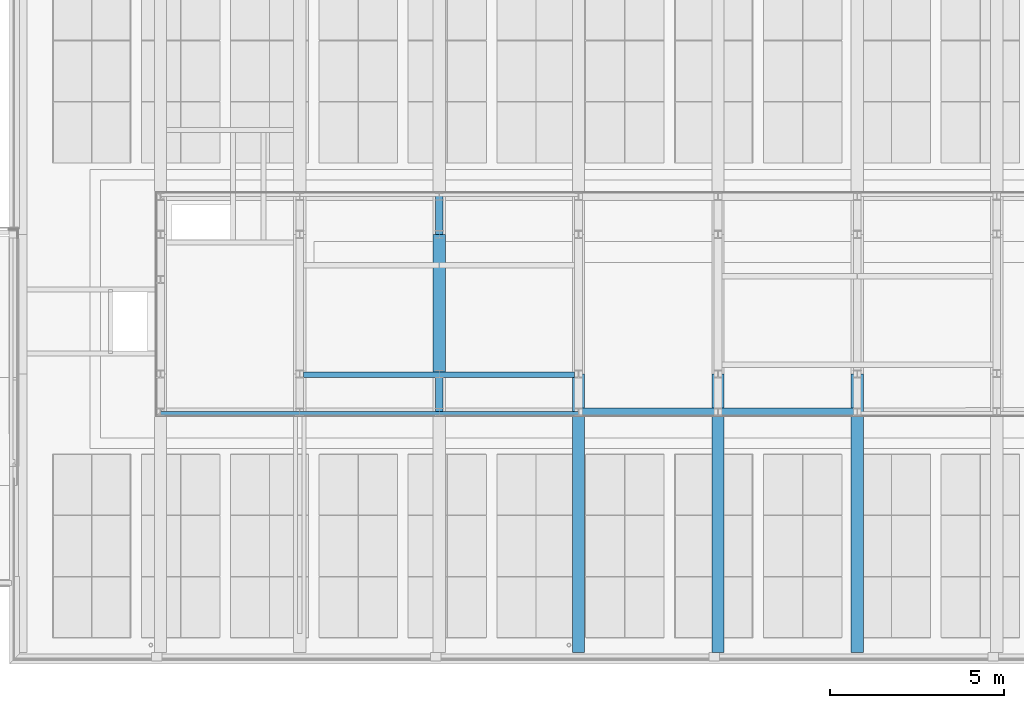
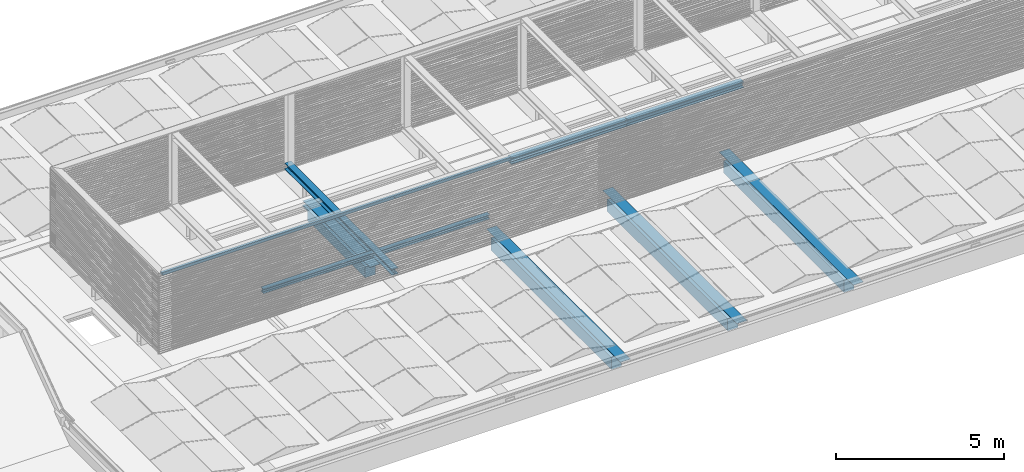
# One storey, part 8 of 63: 8 beams.
"""IFC2X3 building model written with IfcOpenShell, lengths in millimetres."""

from ifc_helpers import new_model, entity, si_unit, converted_unit, derived_unit, money_unit, direction, frame, origin_with_axes, place, context, subcontext, project, spatial, faceted_brep, material, type_object, element, save


model = new_model("IFC2X3")

# Units and contexts
model_context = context("Model", 3, precision=0.01, world=origin_with_axes(), true_north=direction((0.0, 1.0)))
body_context = subcontext(model_context, "Body", "Model", "MODEL_VIEW")
ifc_project = project(units=[si_unit("LENGTHUNIT", "METRE", prefix="MILLI"), si_unit("AREAUNIT", "SQUARE_METRE"), si_unit("VOLUMEUNIT", "CUBIC_METRE"), converted_unit("PLANEANGLEUNIT", "DEGREE", entity("IfcPlaneAngleMeasure", 0.0174532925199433), si_unit("PLANEANGLEUNIT", "RADIAN"), dimensions=[0, 0, 0, 0, 0, 0, 0]), money_unit("EUR"), converted_unit("TIMEUNIT", "Year", entity("IfcTimeMeasure", 31557600.0), si_unit("TIMEUNIT", "SECOND"), dimensions=[0, 0, 1, 0, 0, 0, 0]), si_unit("MASSUNIT", "GRAM", prefix="KILO"), si_unit("THERMODYNAMICTEMPERATUREUNIT", "DEGREE_CELSIUS"), si_unit("LUMINOUSINTENSITYUNIT", "LUMEN"), si_unit("ENERGYUNIT", "JOULE", prefix="MEGA"), derived_unit("THERMALCONDUCTANCEUNIT", [(si_unit("POWERUNIT", "WATT"), 1), (si_unit("LENGTHUNIT", "METRE"), -1), (si_unit("THERMODYNAMICTEMPERATUREUNIT", "KELVIN"), -1)]), derived_unit("SPECIFICHEATCAPACITYUNIT", [(si_unit("ENERGYUNIT", "JOULE"), 1), (si_unit("MASSUNIT", "GRAM", prefix="KILO"), -1), (si_unit("THERMODYNAMICTEMPERATUREUNIT", "KELVIN"), -1)]), derived_unit("MASSDENSITYUNIT", [(si_unit("MASSUNIT", "GRAM", prefix="KILO"), 1), (si_unit("VOLUMEUNIT", "CUBIC_METRE"), -1)])], contexts=[model_context])

# Site, building, storey
site_placement = place(None, origin_with_axes())
site = spatial("IfcSite", under=ifc_project, at=site_placement, Name="<site naam>", CompositionType="ELEMENT")
building_placement = place(site_placement, origin_with_axes())
building = spatial("IfcBuilding", under=site, at=building_placement, Name="<Naam gebouw>", CompositionType="ELEMENT")
storey_placement = place(building_placement, frame((0.0, 0.0, 12770.0), z_axis=(0.0, 0.0, 1.0), x_axis=(1.0, 0.0, 0.0)))
storey = spatial("IfcBuildingStorey", under=building, at=storey_placement, Name="04 4e verdieping", CompositionType="ELEMENT", Elevation=12770.0)

# Beams
ifc_material_1 = material(Name="staal C")
beam_type_1 = type_object("IfcBeamType", Name="HEB220 220 x 220", PredefinedType="BEAM")
beam_1_placement = place(storey_placement, frame((36000.00000000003, 6907.381278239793, 3039.88580884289), z_axis=(0.0, 0.0, 1.0), x_axis=(0.0001309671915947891, 0.9999999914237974, 0.0)))
element("IfcBeam", 1, at=beam_1_placement, inside=storey, type_object=beam_type_1, material=ifc_material_1, Name="Info_Balk_HEB220", ObjectType="BEAM", context=body_context, shape_type="Brep", body=[
    faceted_brep([(110.0000000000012, 4110.014716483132, 99.50000000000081), (110.0000000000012, 7890.014474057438, 99.50000000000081), (110.0000000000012, 7890.014474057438, 115.5000000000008), (110.0000000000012, 4110.014716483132, 115.5000000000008), (95.57160549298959, 7995.262585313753, 99.50000000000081), (95.58538978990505, 7890.012586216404, 99.50000000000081), (96.080445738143, 4110.012893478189, 99.50000000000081), (96.09423003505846, 4004.762894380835, 99.50000000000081), (4.750000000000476, 4004.750931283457, 99.50000000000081), (4.750000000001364, 7995.250690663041, 99.50000000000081), (95.58538978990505, 7890.012586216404, 115.5000000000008), (-92.41460859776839, 7889.987964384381, 115.5000000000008), (-108.4146084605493, 7889.985868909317, 115.5000000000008), (-108.429016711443, 8000.000068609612, 115.5000000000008), (-109.9999999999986, 8000.000068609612, 115.5000000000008), (-110.0000000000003, 0.0, 115.5000000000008), (-107.3812791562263, 0.0, 115.5000000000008), (-107.3956837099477, 109.9859699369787, 115.5000000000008), (-91.3956838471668, 109.9880654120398, 115.5000000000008), (-91.38189955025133, 4.738066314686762, 115.5000000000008), (96.61809883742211, 4.762688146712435, 115.5000000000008), (96.60431454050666, 110.0126872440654, 115.5000000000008), (110.0000000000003, 110.0144416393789, 115.5000000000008), (110.0000000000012, 3890.014714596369, 115.5000000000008), (96.10925852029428, 3890.012895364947, 115.5000000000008), (96.09547422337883, 3995.262894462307, 115.5000000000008), (-91.90452416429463, 3995.238272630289, 115.5000000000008), (-91.89073986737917, 3889.988273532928, 115.5000000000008), (-107.89073973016, 3889.986178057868, 115.5000000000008), (-107.9195525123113, 4109.986176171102, 115.5000000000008), (-91.91955264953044, 4109.988271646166, 115.5000000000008), (-91.90576835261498, 4004.738272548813, 115.5000000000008), (96.09423003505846, 4004.762894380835, 115.5000000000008), (96.080445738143, 4110.012893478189, 115.5000000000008), (95.57160549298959, 7995.262585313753, 115.5000000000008), (-92.42839289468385, 7995.237963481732, 115.5000000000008), (-91.90576835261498, 4004.738272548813, 99.50000000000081), (-4.749999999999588, 4004.749687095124, 99.50000000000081), (-4.749999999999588, 4004.749687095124, -88.4999999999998), (-91.90576835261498, 4004.738272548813, -88.4999999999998), (-91.90576835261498, 4004.738272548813, -104.4999999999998), (96.09423003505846, 4004.762894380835, -104.4999999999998), (96.09423003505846, 4004.762894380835, -88.4999999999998), (4.750000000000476, 4004.750931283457, -88.4999999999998), (4.750000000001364, 7995.250690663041, -88.4999999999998), (-92.42839289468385, 7995.237963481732, 99.50000000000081), (95.57160549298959, 7995.262585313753, -88.4999999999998), (95.57160549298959, 7995.262585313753, -104.4999999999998), (-92.42839289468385, 7995.237963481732, -104.4999999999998), (-92.42839289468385, 7995.237963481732, -88.4999999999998), (-4.749999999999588, 7995.249446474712, -88.4999999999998), (-4.749999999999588, 7995.249446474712, 99.50000000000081), (-108.4146084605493, 7889.985868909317, 99.50000000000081), (-92.41460859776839, 7889.987964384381, 99.50000000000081), (-108.429016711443, 8000.000068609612, 99.50000000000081), (-109.9999999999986, 8000.000068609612, 99.50000000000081), (-110.0000000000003, 0.0, 99.50000000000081), (-107.3812791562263, 0.0, 99.50000000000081), (-107.3956837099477, 109.9859699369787, 99.50000000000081), (-91.3956838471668, 109.9880654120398, 99.50000000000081), (-91.38189955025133, 4.738066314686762, 99.50000000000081), (96.61809883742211, 4.762688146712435, 99.50000000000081), (-4.749999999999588, 4.749412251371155, 99.50000000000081), (-4.749999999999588, 4.749412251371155, -88.4999999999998), (-91.38189955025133, 4.738066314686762, -88.4999999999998), (-91.38189955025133, 4.738066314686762, -104.4999999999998), (96.61809883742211, 4.762688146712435, -104.4999999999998), (96.61809883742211, 4.762688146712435, -88.4999999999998), (4.750000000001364, 4.75065643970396, -88.4999999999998), (4.750000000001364, 4.75065643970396, 99.50000000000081), (96.60431454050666, 110.0126872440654, 99.50000000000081), (110.0000000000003, 110.0144416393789, 99.50000000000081), (110.0000000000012, 3890.014714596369, 99.50000000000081), (96.10925852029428, 3890.012895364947, 99.50000000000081), (96.09547422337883, 3995.262894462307, 99.50000000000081), (-91.90452416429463, 3995.238272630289, 99.50000000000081), (4.750000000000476, 3995.250931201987, 99.50000000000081), (4.750000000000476, 3995.250931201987, -88.4999999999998), (96.09547422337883, 3995.262894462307, -88.4999999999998), (96.09547422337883, 3995.262894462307, -104.4999999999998), (-91.90452416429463, 3995.238272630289, -104.4999999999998), (-91.90452416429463, 3995.238272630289, -88.4999999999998), (-4.749999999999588, 3995.249687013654, -88.4999999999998), (-4.749999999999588, 3995.249687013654, 99.50000000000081), (-91.89073986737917, 3889.988273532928, 99.50000000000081), (-107.89073973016, 3889.986178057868, 99.50000000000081), (-107.9195525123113, 4109.986176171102, 99.50000000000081), (-91.91955264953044, 4109.988271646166, 99.50000000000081), (-92.41460859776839, 7889.987964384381, -88.4999999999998), (-108.4146084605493, 7889.985868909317, -88.4999999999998), (-108.429016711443, 8000.000068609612, -88.4999999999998), (-109.9999999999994, 8000.000068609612, -88.4999999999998), (-110.0000000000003, 0.0, -88.4999999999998), (-107.3812791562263, 0.0, -88.4999999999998), (-107.3956837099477, 109.9859699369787, -88.4999999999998), (-91.3956838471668, 109.9880654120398, -88.4999999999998), (-91.89073986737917, 3889.988273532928, -88.4999999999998), (-107.89073973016, 3889.986178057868, -88.4999999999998), (-107.9195525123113, 4109.986176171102, -88.4999999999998), (-91.91955264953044, 4109.988271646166, -88.4999999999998), (-91.91955264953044, 4109.988271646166, -104.4999999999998), (95.58538978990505, 7890.012586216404, -104.4999999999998), (110.0000000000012, 7890.014474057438, -104.4999999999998), (110.0000000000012, 4110.014716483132, -104.4999999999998), (96.080445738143, 4110.012893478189, -104.4999999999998), (-107.9195525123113, 4109.986176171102, -104.4999999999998), (-107.89073973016, 3889.986178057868, -104.4999999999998), (-91.89073986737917, 3889.988273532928, -104.4999999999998), (96.10925852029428, 3890.012895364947, -104.4999999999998), (110.0000000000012, 3890.014714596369, -104.4999999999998), (110.0000000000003, 110.0144416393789, -104.4999999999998), (96.60431454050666, 110.0126872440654, -104.4999999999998), (-91.3956838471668, 109.9880654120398, -104.4999999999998), (-107.3956837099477, 109.9859699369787, -104.4999999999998), (-107.3812791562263, 0.0, -104.4999999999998), (-110.0000000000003, 0.0, -104.4999999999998), (-109.9999999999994, 8000.000068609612, -104.4999999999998), (-108.429016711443, 8000.000068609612, -104.4999999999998), (-108.4146084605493, 7889.985868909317, -104.4999999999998), (-92.41460859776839, 7889.987964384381, -104.4999999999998), (96.080445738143, 4110.012893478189, -88.4999999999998), (95.58538978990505, 7890.012586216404, -88.4999999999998), (110.0000000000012, 4110.014716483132, -88.4999999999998), (110.0000000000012, 7890.014474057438, -88.4999999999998), (96.60431454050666, 110.0126872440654, -88.4999999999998), (110.0000000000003, 110.0144416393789, -88.4999999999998), (110.0000000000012, 3890.014714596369, -88.4999999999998), (96.10925852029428, 3890.012895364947, -88.4999999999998)], [[[0, 1, 2, 3]], [[4, 5, 1, 0, 6, 7, 8, 9]], [[5, 10, 2, 1]], [[11, 12, 13, 14, 15, 16, 17, 18, 19, 20, 21, 22, 23, 24, 25, 26, 27, 28, 29, 30, 31, 32, 33, 3, 2, 10, 34, 35]], [[6, 0, 3, 33]], [[4, 34, 10, 5]], [[6, 33, 32, 7]], [[7, 32, 31, 36, 37, 38, 39, 40, 41, 42, 43, 8]], [[43, 44, 9, 8]], [[45, 35, 34, 4, 9, 44, 46, 47, 48, 49, 50, 51]], [[52, 12, 11, 53]], [[54, 13, 12, 52]], [[14, 13, 54, 55]], [[56, 15, 14, 55]], [[56, 57, 16, 15]], [[58, 17, 16, 57]], [[59, 18, 17, 58]], [[60, 19, 18, 59]], [[61, 20, 19, 60, 62, 63, 64, 65, 66, 67, 68, 69]], [[70, 21, 20, 61]], [[70, 71, 22, 21]], [[23, 22, 71, 72]], [[73, 24, 23, 72]], [[74, 25, 24, 73]], [[75, 26, 25, 74, 76, 77, 78, 79, 80, 81, 82, 83]], [[84, 27, 26, 75]], [[85, 28, 27, 84]], [[86, 29, 28, 85]], [[87, 30, 29, 86]], [[36, 31, 30, 87]], [[53, 11, 35, 45]], [[53, 45, 51, 37, 36, 87, 86, 85, 84, 75, 83, 62, 60, 59, 58, 57, 56, 55, 54, 52]], [[37, 51, 50, 38]], [[88, 89, 90, 91, 92, 93, 94, 95, 64, 63, 82, 81, 96, 97, 98, 99, 39, 38, 50, 49]], [[40, 39, 99, 100]], [[47, 101, 102, 103, 104, 41, 40, 100, 105, 106, 107, 80, 79, 108, 109, 110, 111, 66, 65, 112, 113, 114, 115, 116, 117, 118, 119, 48]], [[104, 120, 42, 41]], [[121, 46, 44, 43, 42, 120, 122, 123]], [[47, 46, 121, 101]], [[119, 88, 49, 48]], [[82, 63, 62, 83]], [[65, 64, 95, 112]], [[111, 124, 67, 66]], [[67, 124, 125, 126, 127, 78, 77, 68]], [[76, 69, 68, 77]], [[70, 61, 69, 76, 74, 73, 72, 71]], [[79, 78, 127, 108]], [[107, 96, 81, 80]], [[118, 89, 88, 119]], [[117, 90, 89, 118]], [[91, 90, 117, 116]], [[115, 92, 91, 116]], [[115, 114, 93, 92]], [[113, 94, 93, 114]], [[112, 95, 94, 113]], [[106, 97, 96, 107]], [[105, 98, 97, 106]], [[100, 99, 98, 105]], [[101, 121, 123, 102]], [[103, 102, 123, 122]], [[104, 103, 122, 120]], [[108, 127, 126, 109]], [[126, 125, 110, 109]], [[111, 110, 125, 124]]]),
])
beam_2_placement = place(storey_placement, frame((23999.9999721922, 13200.00001151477, 444.1514325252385), z_axis=(0.0, 0.0, 1.0), x_axis=(-1.0, 0.0, 0.0)))
element("IfcBeam", 2, at=beam_2_placement, inside=storey, type_object=beam_type_1, material=ifc_material_1, Name="Info_Balk_HEB220", ObjectType="BEAM", context=body_context, shape_type="Brep", body=[
    faceted_brep([(-109.9999999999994, 0.0, -88.4999999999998), (-109.9999999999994, 5219.52827778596, -88.4999999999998), (-109.9999999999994, 5219.52827778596, -91.49999999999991), (-109.9999999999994, 5143.528277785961, -91.49999999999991), (-109.9999999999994, 5143.528277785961, -104.4999999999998), (-109.9999999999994, 0.0, -104.4999999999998), (-4.750000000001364, 0.0, -88.4999999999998), (-4.750000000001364, 5219.52827778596, -88.4999999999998), (109.9999999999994, 5219.52827778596, -91.49999999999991), (-4.750000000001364, 5219.52827778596, 42.50000000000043), (4.749999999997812, 5219.52827778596, 42.50000000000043), (4.749999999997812, 5219.52827778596, -88.4999999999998), (109.9999999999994, 5219.52827778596, -88.4999999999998), (109.9999999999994, 5143.528277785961, -91.49999999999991), (109.9999999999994, 5143.528277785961, -104.4999999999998), (109.9999999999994, 0.0, -104.4999999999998), (109.9999999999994, 0.0, 99.50000000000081), (109.9999999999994, 0.0, 115.5000000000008), (-109.9999999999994, 0.0, 115.5000000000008), (-109.9999999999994, 0.0, 99.50000000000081), (-4.750000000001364, 0.0, 99.50000000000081), (109.9999999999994, 0.0, -88.4999999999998), (4.750000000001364, 0.0, -88.4999999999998), (4.750000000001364, 0.0, 99.50000000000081), (-4.750000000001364, 5143.528277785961, 42.50000000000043), (-4.750000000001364, 6400.000011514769, 99.50000000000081), (-4.750000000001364, 6400.000011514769, -88.4999999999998), (-4.750000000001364, 5227.528277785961, -88.4999999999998), (-4.750000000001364, 5227.52827778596, 42.50000000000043), (-4.750000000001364, 5303.528277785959, 42.50000000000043), (-4.750000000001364, 5303.528277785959, 55.50000000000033), (-4.750000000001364, 5143.528277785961, 55.50000000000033), (4.749999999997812, 5143.528277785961, 42.50000000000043), (4.749999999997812, 5303.528277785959, 42.50000000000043), (4.749999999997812, 5227.52827778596, 42.50000000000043), (4.749999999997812, 5227.528277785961, -88.4999999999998), (4.749999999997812, 6400.000011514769, -88.4999999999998), (4.749999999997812, 6400.000011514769, 99.50000000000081), (4.749999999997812, 5143.528277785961, 55.50000000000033), (4.749999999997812, 5303.528277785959, 55.50000000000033), (109.9999999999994, 6400.000011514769, 99.50000000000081), (109.9999999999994, 6400.000011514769, 115.5000000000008), (-109.9999999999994, 6400.000011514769, 115.5000000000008), (-109.9999999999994, 6400.000011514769, 99.50000000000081), (109.9999999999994, 6400.000011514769, -88.4999999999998), (109.9999999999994, 6400.000011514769, -104.4999999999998), (-109.9999999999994, 6400.000011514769, -104.4999999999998), (-109.9999999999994, 6400.000011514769, -88.4999999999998), (-109.9999999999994, 5227.528277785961, -88.4999999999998), (-109.9999999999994, 5227.52827778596, -91.49999999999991), (109.9999999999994, 5227.52827778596, -91.49999999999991), (109.9999999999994, 5227.528277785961, -88.4999999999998), (109.9999999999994, 5303.528277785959, -91.49999999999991), (109.9999999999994, 5303.528277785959, -104.4999999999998), (-109.9999999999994, 5303.528277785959, -104.4999999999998), (-109.9999999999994, 5303.528277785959, -91.49999999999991)], [[[0, 1, 2, 3, 4, 5]], [[6, 7, 1, 0]], [[8, 2, 1, 7, 9, 10, 11, 12]], [[13, 3, 2, 8]], [[14, 4, 3, 13]], [[5, 4, 14, 15]], [[16, 17, 18, 19, 20, 6, 0, 5, 15, 21, 22, 23]], [[24, 9, 7, 6, 20, 25, 26, 27, 28, 29, 30, 31]], [[10, 9, 24, 32]], [[33, 34, 35, 36, 37, 23, 22, 11, 10, 32, 38, 39]], [[21, 12, 11, 22]], [[13, 8, 12, 21, 15, 14]], [[17, 16, 40, 41]], [[18, 17, 41, 42]], [[19, 18, 42, 43]], [[20, 19, 43, 25]], [[16, 23, 37, 40]], [[25, 43, 42, 41, 40, 37, 36, 44, 45, 46, 47, 26]], [[47, 48, 27, 26]], [[28, 27, 48, 49, 50, 51, 35, 34]], [[33, 29, 28, 34]], [[39, 30, 29, 33]], [[38, 31, 30, 39]], [[32, 24, 31, 38]], [[36, 35, 51, 44]], [[50, 52, 53, 45, 44, 51]], [[45, 53, 54, 46]], [[55, 49, 48, 47, 46, 54]], [[50, 49, 55, 52]], [[52, 55, 54, 53]]]),
])
ifc_material_2 = material(Name="beton_gewapend C")
beam_type_2 = type_object("IfcBeamType", Name="beton_gewapend C 350 x 600", PredefinedType="BEAM")
beam_3_placement = place(storey_placement, frame((36000.00000000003, 7994.453850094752, -59.99999999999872), z_axis=(0.0, 0.0, 1.0), x_axis=(-1.0, 0.0, 0.0)))
element("IfcBeam", 3, at=beam_3_placement, inside=storey, type_object=beam_type_2, material=ifc_material_2, Name="28_Balk_beton_gewapend", ObjectType="BEAM", context=body_context, shape_type="Brep", body=[
    faceted_brep([(174.9999999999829, 269.453850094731, -159.9999853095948), (174.9999999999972, 7444.453850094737, -159.9999853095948), (-174.9999999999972, 7444.453850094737, -159.9999853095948), (-175.0000000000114, 269.453850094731, -159.9999853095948), (174.9999999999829, 269.453850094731, -599.9999999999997), (174.9999999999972, 7444.453850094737, -599.9999999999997), (-174.9999999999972, 7444.453850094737, -599.9999999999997), (-175.0000000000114, 269.453850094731, -599.9999999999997)], [[[0, 1, 2, 3]], [[4, 5, 1, 0]], [[5, 6, 2, 1]], [[3, 2, 6, 7]], [[4, 0, 3, 7]], [[7, 6, 5, 4]]]),
    faceted_brep([(-175.0000000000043, 7994.453850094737, 0.0), (-175.0000000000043, 7994.453850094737, -9.99998530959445), (-174.9999999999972, 0.0, -9.99998530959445), (-174.9999999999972, 0.0, 0.0), (174.9999999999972, 7994.453850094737, 0.0), (174.9999999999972, 7994.453850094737, -9.99998530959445), (174.9999999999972, 0.0, -9.99998530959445), (174.9999999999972, 0.0, 0.0)], [[[0, 1, 2, 3]], [[4, 5, 1, 0]], [[5, 6, 2, 1]], [[3, 2, 6, 7]], [[3, 7, 4, 0]], [[7, 6, 5, 4]]]),
])
beam_4_placement = place(storey_placement, frame((32000.00000000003, 7994.453850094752, -59.99999999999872), z_axis=(0.0, 0.0, 1.0), x_axis=(-1.0, 0.0, 0.0)))
element("IfcBeam", 4, at=beam_4_placement, inside=storey, type_object=beam_type_2, material=ifc_material_2, Name="28_Balk_beton_gewapend", ObjectType="BEAM", context=body_context, shape_type="Brep", body=[
    faceted_brep([(174.9999999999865, 269.453850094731, -159.9999853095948), (175.0000000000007, 7444.453850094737, -159.9999853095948), (-174.9999999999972, 7444.453850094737, -159.9999853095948), (-175.0000000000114, 269.453850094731, -159.9999853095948), (174.9999999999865, 269.453850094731, -599.9999999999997), (175.0000000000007, 7444.453850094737, -599.9999999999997), (-174.9999999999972, 7444.453850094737, -599.9999999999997), (-175.0000000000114, 269.453850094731, -599.9999999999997)], [[[0, 1, 2, 3]], [[4, 5, 1, 0]], [[5, 6, 2, 1]], [[3, 2, 6, 7]], [[4, 0, 3, 7]], [[7, 6, 5, 4]]]),
    faceted_brep([(-175.0000000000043, 7994.453850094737, 0.0), (-175.0000000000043, 7994.453850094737, -9.99998530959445), (-174.9999999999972, 0.0, -9.99998530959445), (-174.9999999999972, 0.0, 0.0), (175.0000000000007, 7994.453850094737, 0.0), (175.0000000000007, 7994.453850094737, -9.99998530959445), (175.0000000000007, 0.0, -9.99998530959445), (175.0000000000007, 0.0, 0.0)], [[[0, 1, 2, 3]], [[4, 5, 1, 0]], [[5, 6, 2, 1]], [[3, 2, 6, 7]], [[3, 7, 4, 0]], [[7, 6, 5, 4]]]),
])
beam_5_placement = place(storey_placement, frame((28000.00000000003, 7994.453850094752, -59.99999999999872), z_axis=(0.0, 0.0, 1.0), x_axis=(-1.0, 0.0, 0.0)))
element("IfcBeam", 5, at=beam_5_placement, inside=storey, type_object=beam_type_2, material=ifc_material_2, Name="28_Balk_beton_gewapend", ObjectType="BEAM", context=body_context, shape_type="Brep", body=[
    faceted_brep([(174.9999999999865, 269.453850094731, -159.9999853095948), (175.0000000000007, 7444.453850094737, -159.9999853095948), (-175.0000000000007, 7444.453850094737, -159.9999853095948), (-175.0000000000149, 269.453850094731, -159.9999853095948), (174.9999999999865, 269.453850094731, -599.9999999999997), (175.0000000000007, 7444.453850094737, -599.9999999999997), (-175.0000000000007, 7444.453850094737, -599.9999999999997), (-175.0000000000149, 269.453850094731, -599.9999999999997)], [[[0, 1, 2, 3]], [[4, 5, 1, 0]], [[5, 6, 2, 1]], [[3, 2, 6, 7]], [[4, 0, 3, 7]], [[7, 6, 5, 4]]]),
    faceted_brep([(-175.0000000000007, 7994.453850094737, 0.0), (-175.0000000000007, 7994.453850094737, -9.99998530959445), (-175.0000000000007, 0.0, -9.99998530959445), (-175.0000000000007, 0.0, 0.0), (175.0000000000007, 7994.453850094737, 0.0), (175.0000000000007, 7994.453850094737, -9.99998530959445), (175.0000000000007, 0.0, -9.99998530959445), (175.0000000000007, 0.0, 0.0)], [[[0, 1, 2, 3]], [[4, 5, 1, 0]], [[5, 6, 2, 1]], [[3, 2, 6, 7]], [[3, 7, 4, 0]], [[7, 6, 5, 4]]]),
])
beam_type_3 = type_object("IfcBeamType", Name="beton_gewapend C 350 x 550", PredefinedType="BEAM")
beam_6_placement = place(storey_placement, frame((24000.00000000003, 12000.00000000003, -59.99999999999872), z_axis=(0.0, 0.0, 1.0), x_axis=(-1.0, 0.0, 0.0)))
element("IfcBeam", 6, at=beam_6_placement, inside=storey, type_object=beam_type_3, material=ifc_material_2, Name="28_Balk_beton_gewapend", ObjectType="BEAM", context=body_context, shape_type="Brep", body=[
    faceted_brep([(175.0000000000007, 0.0, -159.9999853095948), (174.9999999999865, 3725.0, -159.9999853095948), (-175.0000000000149, 3725.0, -159.9999853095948), (-175.0000000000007, 0.0, -159.9999853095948), (174.9999999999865, 275.0000000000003, -550.0000000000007), (174.9999999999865, 3725.0, -550.0000000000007), (174.9999999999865, 0.0, -220.0000000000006), (174.9999999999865, 275.0000000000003, -220.0000000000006), (-175.0000000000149, 3725.0, -550.0000000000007), (-175.0000000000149, 275.0000000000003, -550.0000000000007), (-175.0000000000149, 275.0000000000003, -220.0000000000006), (-175.0000000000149, 0.0, -220.0000000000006)], [[[0, 1, 2, 3]], [[4, 5, 1, 0, 6, 7]], [[5, 8, 2, 1]], [[3, 2, 8, 9, 10, 11]], [[3, 11, 6, 0]], [[9, 8, 5, 4]], [[7, 6, 11, 10]], [[7, 10, 9, 4]]]),
    faceted_brep([(-175.0000000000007, 4005.546149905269, 0.0), (-175.0000000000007, 4005.546149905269, -9.99998530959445), (-175.0000000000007, 0.0, -9.99998530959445), (-175.0000000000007, 0.0, 0.0), (175.0000000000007, 4005.546149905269, 0.0), (175.0000000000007, 4005.546149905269, -9.99998530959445), (175.0000000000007, 0.0, -9.99998530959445), (175.0000000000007, 0.0, 0.0)], [[[0, 1, 2, 3]], [[4, 5, 1, 0]], [[5, 6, 2, 1]], [[3, 2, 6, 7]], [[3, 7, 4, 0]], [[7, 6, 5, 4]]]),
])
beam_type_4 = type_object("IfcBeamType", Name="HEB160 160 x 160", PredefinedType="BEAM")
beam_7_placement = place(storey_placement, frame((20110.00000000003, 7976.471733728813, 414.1514325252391), z_axis=(0.0, 0.0, 1.0), x_axis=(0.0, -1.0, 0.0)))
element("IfcBeam", 7, at=beam_7_placement, inside=storey, type_object=beam_type_4, material=ifc_material_1, Name="Info_Balk_HEB160", ObjectType="BEAM", context=body_context, shape_type="Brep", body=[
    faceted_brep([(-79.99999999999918, 0.0, 85.49999999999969), (-79.99999999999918, 7780.000000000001, 85.49999999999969), (-79.99999999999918, 7780.000000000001, 72.49999999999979), (-79.99999999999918, 0.0, 72.49999999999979), (80.00000000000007, 0.0, 85.49999999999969), (79.99999999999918, 7780.000000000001, 85.49999999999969), (79.99999999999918, 7780.000000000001, 72.49999999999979), (3.999999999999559, 7780.000000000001, 72.49999999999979), (3.999999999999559, 7780.000000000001, -61.50000000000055), (79.99999999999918, 7780.000000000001, -61.50000000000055), (79.99999999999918, 7780.000000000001, -74.50000000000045), (-79.99999999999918, 7780.000000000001, -74.50000000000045), (-79.99999999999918, 7780.000000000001, -61.50000000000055), (-4.000000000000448, 7780.000000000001, -61.50000000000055), (-4.000000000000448, 7780.000000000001, 72.49999999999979), (-4.000000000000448, 0.0, 72.49999999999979), (-3.999999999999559, 0.0, -61.50000000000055), (-79.99999999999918, 0.0, -61.50000000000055), (-79.99999999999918, 0.0, -74.50000000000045), (80.00000000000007, 0.0, -74.50000000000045), (80.00000000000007, 0.0, -61.50000000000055), (3.999999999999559, 0.0, -61.50000000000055), (3.999999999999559, 0.0, 72.49999999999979), (80.00000000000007, 0.0, 72.49999999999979)], [[[0, 1, 2, 3]], [[4, 5, 1, 0]], [[2, 1, 5, 6, 7, 8, 9, 10, 11, 12, 13, 14]], [[3, 2, 14, 15]], [[4, 0, 3, 15, 16, 17, 18, 19, 20, 21, 22, 23]], [[23, 6, 5, 4]], [[22, 7, 6, 23]], [[21, 8, 7, 22]], [[20, 9, 8, 21]], [[19, 10, 9, 20]], [[18, 11, 10, 19]], [[17, 12, 11, 18]], [[16, 13, 12, 17]], [[15, 14, 13, 16]]]),
])
beam_type_5 = type_object("IfcBeamType", Name="RHS100X100X5 100 x 100", PredefinedType="BEAM")
beam_8_placement = place(storey_placement, frame((28000.00000000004, 6865.999999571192, 3139.651432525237), z_axis=(0.0, 0.0, 1.0), x_axis=(0.000130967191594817, 0.9999999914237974, 0.0)))
element("IfcBeam", 8, at=beam_8_placement, inside=storey, type_object=beam_type_5, material=ifc_material_1, Name="Info_Balk_RHS100X100X5", ObjectType="BEAM", context=body_context, shape_type="Brep", body=[
    faceted_brep([(50.00000000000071, 8004.756617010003, -50.00000000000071), (-49.99999999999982, 8004.743520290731, -50.00000000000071), (-49.99999999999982, 11995.25010287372, -50.00000000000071), (49.99999999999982, 11995.25010287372, -50.00000000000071), (-45.00000000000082, 8004.744175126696, 15.73437631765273), (-49.99999999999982, 8004.743520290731, 15.73437631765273), (50.00000000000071, 8004.756617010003, 15.73437631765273), (44.99999999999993, 8004.755962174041, 15.73437631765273), (44.99999999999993, 8004.755962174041, -44.99999999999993), (-45.00000000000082, 8004.744175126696, -44.99999999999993), (-49.99999999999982, 11995.25010287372, 50.00000000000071), (-49.99999999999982, 7995.24352020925, 15.73437631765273), (-49.99999999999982, 7995.24352020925, -50.00000000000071), (-49.99999999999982, 4004.743513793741, -50.00000000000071), (-49.99999999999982, 4004.743513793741, 15.73437631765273), (-49.99999999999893, 3995.243513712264, 15.73437631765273), (-49.99999999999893, 3995.243513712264, -50.00000000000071), (-50.00000000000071, 4.743451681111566, -50.00000000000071), (-50.00062123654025, 4.74345159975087, 50.00002122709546), (49.99999999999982, 11995.25010287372, 50.00000000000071), (44.99999999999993, 11995.25010287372, 44.99999999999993), (-45.00000000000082, 11995.25010287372, 44.99999999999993), (-45.00000000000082, 11995.25010287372, -44.99999999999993), (44.99999999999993, 11995.25010287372, -44.99999999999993), (50.00000000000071, 7995.256616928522, 15.73437631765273), (49.99999999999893, 4.756548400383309, 50.00000000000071), (49.99999999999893, 4.756548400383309, -50.00000000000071), (50.00000000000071, 3995.256610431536, -50.00000000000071), (50.00000000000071, 3995.256610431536, 15.73437631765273), (50.00000000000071, 4004.756610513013, 15.73437631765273), (50.00000000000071, 4004.756610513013, -50.00000000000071), (50.00000000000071, 7995.256616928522, -50.00000000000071), (-45.00000000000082, 7995.244175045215, 15.73437631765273), (44.99999999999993, 7995.25596209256, 15.73437631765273), (44.99999999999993, 7995.25596209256, -44.99999999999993), (45.00000000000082, 4004.755955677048, -44.99999999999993), (45.00000000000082, 4004.755955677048, 15.73437631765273), (45.00000000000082, 3995.255955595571, 15.73437631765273), (45.00000000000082, 3995.255955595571, -44.99999999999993), (44.99999999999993, 4.755893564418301, -44.99999999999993), (44.99999999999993, 4.755893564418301, 44.99999999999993), (-45.00000000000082, 4.744106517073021, 44.99999999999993), (-45.00000000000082, 4.744106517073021, -44.99999999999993), (-44.99999999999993, 3995.244168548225, -44.99999999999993), (-44.99999999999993, 3995.244168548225, 15.73437631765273), (-44.99999999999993, 4004.744168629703, 15.73437631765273), (-44.99999999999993, 4004.744168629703, -44.99999999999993), (-45.00000000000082, 7995.244175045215, -44.99999999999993)], [[[0, 1, 2, 3]], [[4, 5, 1, 0, 6, 7, 8, 9]], [[10, 2, 1, 5, 11, 12, 13, 14, 15, 16, 17, 18]], [[3, 2, 10, 19], [20, 21, 22, 23]], [[24, 6, 0, 3, 19, 25, 26, 27, 28, 29, 30, 31]], [[11, 5, 4, 32]], [[33, 7, 6, 24]], [[23, 8, 7, 33, 34, 35, 36, 37, 38, 39, 40, 20]], [[23, 22, 9, 8]], [[32, 4, 9, 22, 21, 41, 42, 43, 44, 45, 46, 47]], [[31, 12, 11, 32, 47, 34, 33, 24]], [[30, 13, 12, 31]], [[45, 14, 13, 30, 29, 36, 35, 46]], [[44, 15, 14, 45]], [[27, 16, 15, 44, 43, 38, 37, 28]], [[17, 16, 27, 26]], [[25, 18, 17, 26], [39, 42, 41, 40]], [[25, 19, 10, 18]], [[41, 21, 20, 40]], [[28, 37, 36, 29]], [[34, 47, 46, 35]], [[39, 38, 43, 42]]]),
])

save(model, "model.ifc")
